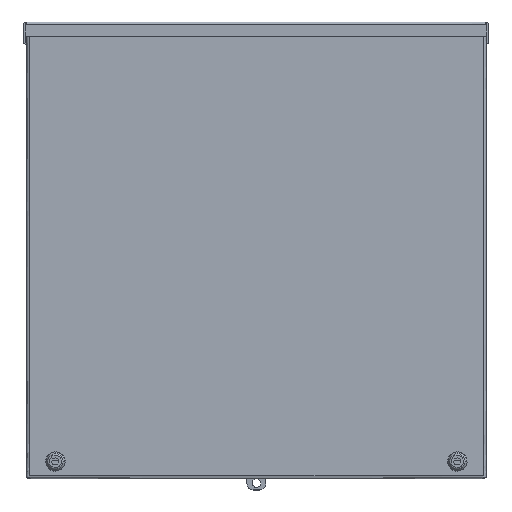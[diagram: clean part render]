
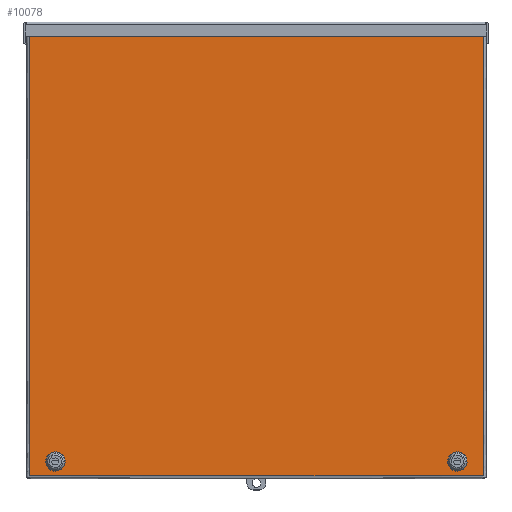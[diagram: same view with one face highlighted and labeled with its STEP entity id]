
A CAD part, top view. The second image highlights one B-rep face of the part: STEP entity #10078.
In plain terms, the highlighted free-form (B-spline) face has degree [1, 1] with [2, 2] control points.
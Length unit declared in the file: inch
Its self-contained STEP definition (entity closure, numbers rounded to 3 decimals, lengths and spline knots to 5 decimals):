
#8156=CARTESIAN_POINT('V78',(1.48018,-0.055,
   17.37));
#8157=VERTEX_POINT('V78',#8156);
#8171=CARTESIAN_POINT('E124',(1.48018,-0.055,
   17.37));
#8172=CARTESIAN_POINT('E124',(1.48018,-0.055,
   16.70285));
#8173=CARTESIAN_POINT('E124',(0.90241,-0.055,
   17.03643));
#8174=CARTESIAN_POINT('E124',(0.32464,-0.055,
   17.37));
#8175=CARTESIAN_POINT('E124',(0.90241,-0.055,
   17.70357));
#8176=CARTESIAN_POINT('E124',(1.48018,-0.055,
   18.03715));
#8177=CARTESIAN_POINT('E124',(1.48018,-0.055,
   17.37));
#8185=(BOUNDED_CURVE()B_SPLINE_CURVE(2,(#8171,#8172,#8173,#8174,
   #8175,#8176,#8177),.CIRCULAR_ARC.,.T.,.U.)
   B_SPLINE_CURVE_WITH_KNOTS((3,2,2,3),(0.0,64.0058,
   128.01159,192.01739),.UNSPECIFIED.)CURVE()
   GEOMETRIC_REPRESENTATION_ITEM()RATIONAL_B_SPLINE_CURVE((1.0,
   0.5,1.0,0.5,1.0,0.5,1.0)
   )REPRESENTATION_ITEM('E124'));
#8186=EDGE_CURVE('E124',#8157,#8157,#8185,.T.);
#8651=CARTESIAN_POINT('V68',(17.48018,-0.055,
   17.37));
#8652=VERTEX_POINT('V68',#8651);
#8666=CARTESIAN_POINT('E107',(17.48018,-0.055,
   17.37));
#8667=CARTESIAN_POINT('E107',(17.48018,-0.055,
   16.70285));
#8668=CARTESIAN_POINT('E107',(16.90241,-0.055,
   17.03643));
#8669=CARTESIAN_POINT('E107',(16.32464,-0.055,
   17.37));
#8670=CARTESIAN_POINT('E107',(16.90241,-0.055,
   17.70357));
#8671=CARTESIAN_POINT('E107',(17.48018,-0.055,
   18.03715));
#8672=CARTESIAN_POINT('E107',(17.48018,-0.055,
   17.37));
#8680=(BOUNDED_CURVE()B_SPLINE_CURVE(2,(#8666,#8667,#8668,#8669,
   #8670,#8671,#8672),.CIRCULAR_ARC.,.T.,.U.)
   B_SPLINE_CURVE_WITH_KNOTS((3,2,2,3),(0.0,64.0058,
   128.01159,192.01739),.UNSPECIFIED.)CURVE()
   GEOMETRIC_REPRESENTATION_ITEM()RATIONAL_B_SPLINE_CURVE((1.0,
   0.5,1.0,0.5,1.0,0.5,1.0)
   )REPRESENTATION_ITEM('E107'));
#8681=EDGE_CURVE('E107',#8652,#8652,#8680,.T.);
#9406=CARTESIAN_POINT('V26',(0.06,-0.055,
   17.945));
#9407=VERTEX_POINT('V26',#9406);
#9444=CARTESIAN_POINT('V39',(0.06,-0.055,
   0.));
#9445=VERTEX_POINT('V39',#9444);
#9446=CARTESIAN_POINT('E89',(0.06,-0.055,
   0.));
#9447=CARTESIAN_POINT('E89',(0.06,-0.055,
   17.945));
#9448=QUASI_UNIFORM_CURVE('E89',1,(#9446,#9447),.POLYLINE_FORM.,.F.,
   .U.);
#9449=EDGE_CURVE('E89',#9445,#9407,#9448,.T.);
#9491=CARTESIAN_POINT('V40',(18.13,-0.055,
   0.));
#9492=VERTEX_POINT('V40',#9491);
#9506=CARTESIAN_POINT('E50',(0.06,-0.055,
   0.0));
#9507=CARTESIAN_POINT('E50',(18.13,-0.055,
   0.0));
#9508=QUASI_UNIFORM_CURVE('E50',1,(#9506,#9507),.POLYLINE_FORM.,.F.,
   .U.);
#9509=EDGE_CURVE('E50',#9445,#9492,#9508,.T.);
#9547=CARTESIAN_POINT('V6',(18.13,-0.055,
   17.945));
#9548=VERTEX_POINT('V6',#9547);
#9592=CARTESIAN_POINT('E90',(18.13,-0.055,
   17.945));
#9593=CARTESIAN_POINT('E90',(18.13,-0.055,
   0.));
#9594=QUASI_UNIFORM_CURVE('E90',1,(#9592,#9593),.POLYLINE_FORM.,.F.,
   .U.);
#9595=EDGE_CURVE('E90',#9548,#9492,#9594,.T.);
#10048=CARTESIAN_POINT('E82',(0.06,-0.055,
   17.945));
#10049=CARTESIAN_POINT('E82',(18.13,-0.055,
   17.945));
#10050=QUASI_UNIFORM_CURVE('E82',1,(#10048,#10049),.POLYLINE_FORM.,
   .F.,.U.);
#10051=EDGE_CURVE('E82',#9407,#9548,#10050,.T.);
#10061=CARTESIAN_POINT('F52',(18.13394,-0.055,
   -0.00394));
#10062=CARTESIAN_POINT('F52',(18.13394,-0.055,
   17.94894));
#10063=CARTESIAN_POINT('F52',(0.05606,-0.055,
   -0.00394));
#10064=CARTESIAN_POINT('F52',(0.05606,-0.055,
   17.94894));
#10065=QUASI_UNIFORM_SURFACE('F52',1,1,((#10061,#10063),(#10062,
   #10064)),.PLANE_SURF.,.F.,.F.,.U.);
#10066=ORIENTED_EDGE('E82',*,*,#10051,.F.);
#10067=ORIENTED_EDGE('E89',*,*,#9449,.F.);
#10068=ORIENTED_EDGE('E50',*,*,#9509,.T.);
#10069=ORIENTED_EDGE('E90',*,*,#9595,.F.);
#10070=EDGE_LOOP('F52',(#10066,#10067,#10068,#10069));
#10071=FACE_OUTER_BOUND('F52',#10070,.T.);
#10072=ORIENTED_EDGE('E107',*,*,#8681,.T.);
#10073=EDGE_LOOP('F52',(#10072));
#10074=FACE_BOUND('F52',#10073,.T.);
#10075=ORIENTED_EDGE('E124',*,*,#8186,.T.);
#10076=EDGE_LOOP('F52',(#10075));
#10077=FACE_BOUND('F52',#10076,.T.);
#10078=ADVANCED_FACE('F52',(#10071,#10074,#10077),#10065,.T.);
